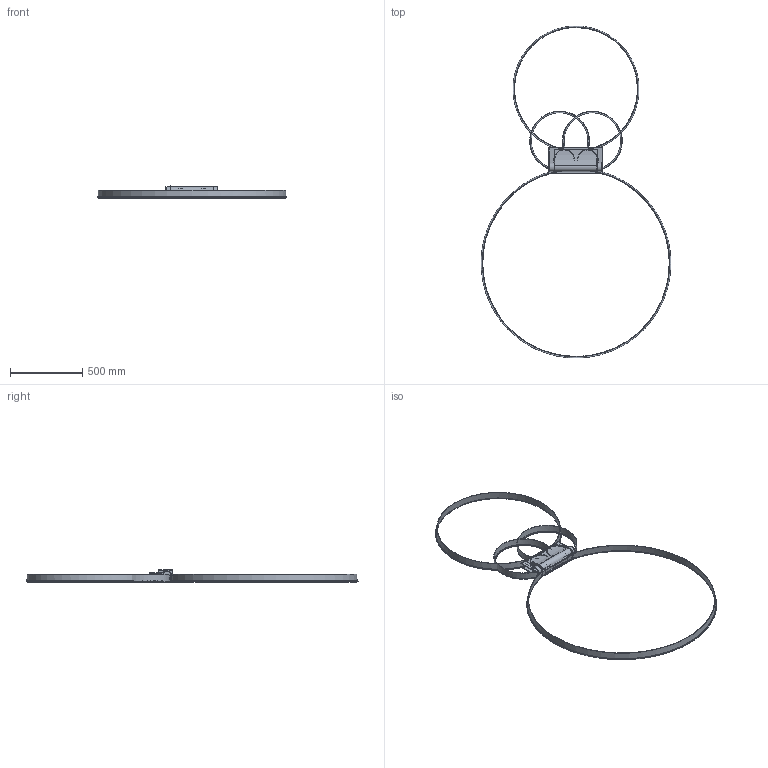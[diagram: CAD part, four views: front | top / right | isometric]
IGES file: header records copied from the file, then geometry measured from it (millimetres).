
Global section: file name: C:\Users\utente\Desktop\3d sito\FLORES\FLORES.igs; native system: Rhinoceros ( Mar  9 2011 ); preprocessor: Trout Lake IGES 012 Mar  9 2011; date: 170522.094202; units: millimetre
Bounding box: 1309.37 x 2291.39 x 87.47 mm (x, y, z)
Surface area: 2448719.9 mm2 (no closed solid volume)
Topology: 0 solids, 0 shells, 184 faces, 653 edges, 577 vertices
Faces by surface type: bspline 184
